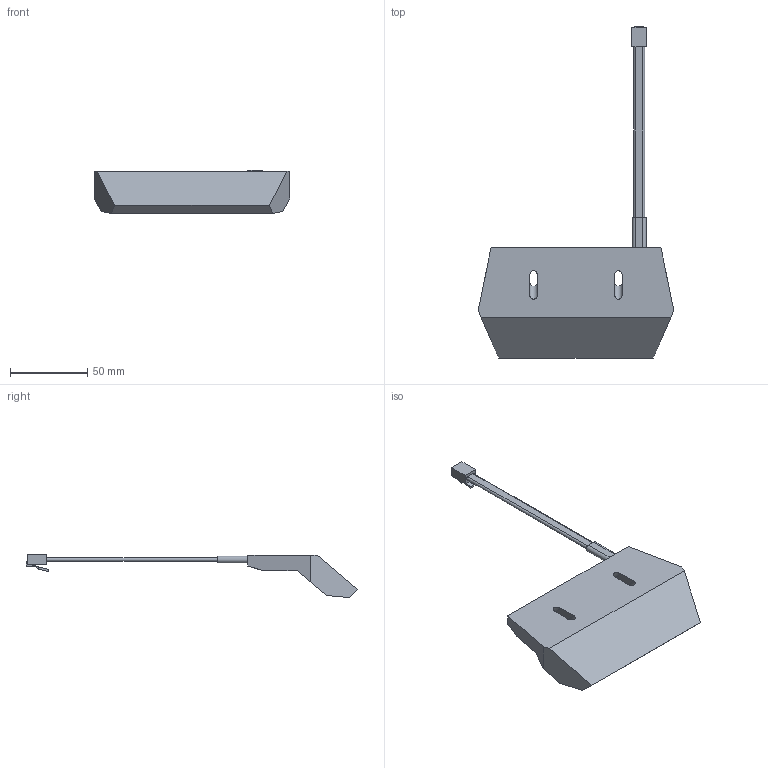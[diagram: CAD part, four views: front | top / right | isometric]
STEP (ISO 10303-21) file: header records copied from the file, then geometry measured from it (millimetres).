
FILE_DESCRIPTION( ( 'STEP AP214' ), '1' );
FILE_NAME( 'C:/Users/KOSH/Desktop/New folder/2021/Actiforce/Export/9309938.stp', '2021-12-03T09:47:41', ( '' ), ( '' ), ' ', 'PARTsolutions', ' ' );
FILE_SCHEMA( ( 'AUTOMOTIVE_DESIGN { 1 0 10303 214 1 1 1 1 }' ) );
Length unit declared in the file: millimetre
Products named in the file (1): _9309938
Bounding box: 126.98 x 215.43 x 28.02 mm (x, y, z)
Volume: 106345.2 mm3; surface area: 24744.1 mm2
Topology: 1 solids, 1 shells, 51 faces, 140 edges, 92 vertices
Faces by surface type: plane 43, cylinder 8
Entity records: 2030 total; most frequent: CARTESIAN_POINT 284, ORIENTED_EDGE 280, DIRECTION 260, EDGE_CURVE 140, LINE 124, VECTOR 124, VERTEX_POINT 92, AXIS2_PLACEMENT_3D 68
